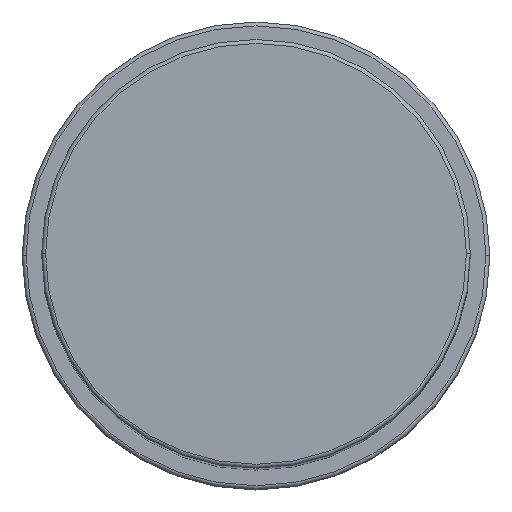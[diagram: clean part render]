
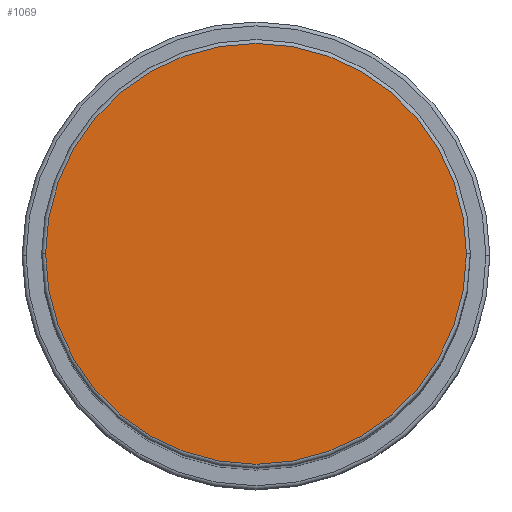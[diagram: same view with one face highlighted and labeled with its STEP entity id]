
A CAD part, top view. The second image highlights one B-rep face of the part: STEP entity #1069.
In plain terms, the highlighted planar face has unit normal (0, 0, 1).
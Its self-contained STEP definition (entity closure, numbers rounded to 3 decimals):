
#68 = VERTEX_POINT ( 'NONE', #1073 ) ;
#127 = FACE_OUTER_BOUND ( 'NONE', #618, .T. ) ;
#144 = AXIS2_PLACEMENT_3D ( 'NONE', #1562, #1315, #354 ) ;
#168 = PLANE ( 'NONE',  #144 ) ;
#350 = AXIS2_PLACEMENT_3D ( 'NONE', #658, #510, #516 ) ;
#354 = DIRECTION ( 'NONE',  ( 1., 0., 0. ) ) ;
#398 = ORIENTED_EDGE ( 'NONE', *, *, #603, .T. ) ;
#510 = DIRECTION ( 'NONE',  ( 0., 0., 1. ) ) ;
#516 = DIRECTION ( 'NONE',  ( 1., 0., 0. ) ) ;
#603 = EDGE_CURVE ( 'NONE', #620, #68, #732, .T. ) ;
#618 = EDGE_LOOP ( 'NONE', ( #863, #398 ) ) ;
#620 = VERTEX_POINT ( 'NONE', #1749 ) ;
#658 = CARTESIAN_POINT ( 'NONE',  ( 0., 0., 158. ) ) ;
#732 = CIRCLE ( 'NONE', #350, 27. ) ;
#863 = ORIENTED_EDGE ( 'NONE', *, *, #1744, .T. ) ;
#956 = DIRECTION ( 'NONE',  ( 0., 0., 1. ) ) ;
#1063 = AXIS2_PLACEMENT_3D ( 'NONE', #1483, #956, #1498 ) ;
#1069 = ADVANCED_FACE ( 'NONE', ( #127 ), #168, .T. ) ;
#1073 = CARTESIAN_POINT ( 'NONE',  ( 27., 0., 158. ) ) ;
#1315 = DIRECTION ( 'NONE',  ( 0., 0., 1. ) ) ;
#1483 = CARTESIAN_POINT ( 'NONE',  ( 0., 0., 158. ) ) ;
#1498 = DIRECTION ( 'NONE',  ( 1., 0., 0. ) ) ;
#1562 = CARTESIAN_POINT ( 'NONE',  ( 0., 0., 158. ) ) ;
#1729 = CIRCLE ( 'NONE', #1063, 27. ) ;
#1744 = EDGE_CURVE ( 'NONE', #68, #620, #1729, .T. ) ;
#1749 = CARTESIAN_POINT ( 'NONE',  ( -27., 0., 158. ) ) ;
